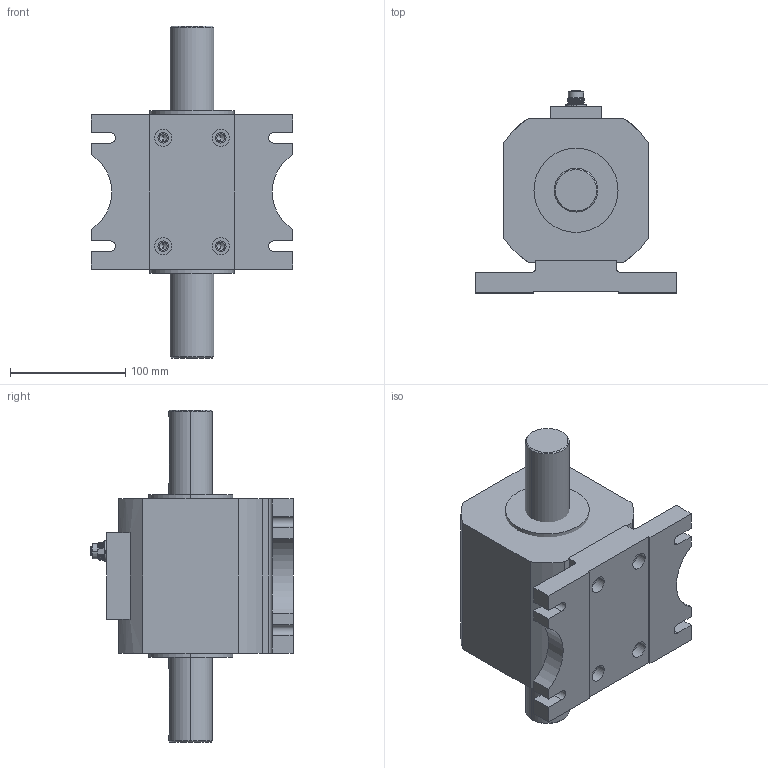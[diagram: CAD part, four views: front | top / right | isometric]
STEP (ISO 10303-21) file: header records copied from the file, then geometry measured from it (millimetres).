
FILE_DESCRIPTION (( 'STEP AP203' ), '1' );
FILE_NAME ('WTQ2053-T5.STEP', '2025-04-09T02:54:21', ( 'China' ), ( 'Microsoft' ), 'SwSTEP 2.0', 'SolidWorks 2024', '' );
FILE_SCHEMA (( 'CONFIG_CONTROL_DESIGN' ));
Length unit declared in the file: millimetre
Products named in the file (4): 13-40B芯航插200; 2-2053T5外壳; 3-2053底座; WTQ2053-T5
Assembly tree (3 placements, depth 2):
  WTQ2053-T5
    2-2053T5外壳
    3-2053底座
    13-40B芯航插200
Bounding box: 175 x 175.45 x 288 mm (x, y, z)
Volume: 2803325.7 mm3; surface area: 227194.7 mm2
Topology: 8 solids, 8 shells, 237 faces, 587 edges, 379 vertices
Faces by surface type: plane 99, cylinder 87, bspline 26, cone 22, torus 3
Entity records: 12766 total; most frequent: CARTESIAN_POINT 6942, ORIENTED_EDGE 1158, DIRECTION 1087, EDGE_CURVE 579, AXIS2_PLACEMENT_3D 395, VERTEX_POINT 379, LINE 297, VECTOR 297
